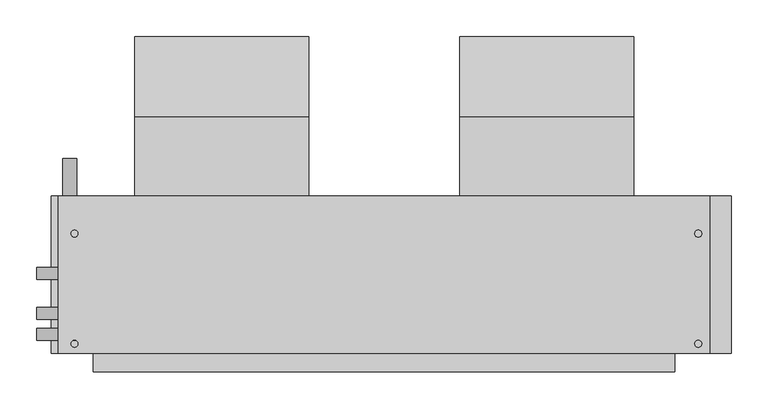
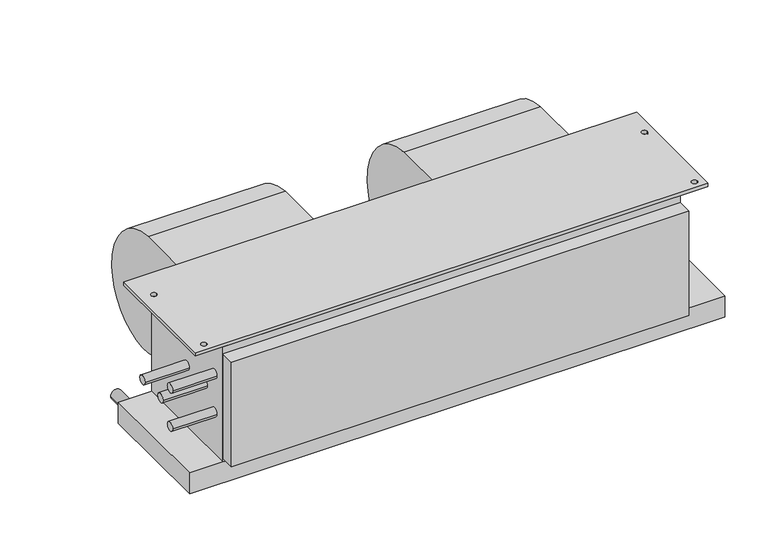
"""IFC4 building model written with IfcOpenShell, lengths in millimetres: proxy geometry, Concealed_Horizontal_Fan_Coil_Unit_-_42CAA_-_CARRIER_-_4-Pipe_LH_2022 : Size 06 - 277v/60Hz/1Ph - 4/1 Coil."""

import ifcopenshell
import ifcopenshell.guid

model = None  # the IFC model being written
_history = None  # IfcOwnerHistory: only IFC2X3 demands one
_inside = {}  # id of a spatial element -> (the spatial element, [elements in it])
_under = {}  # id of a project, library or spatial element -> (it, [spatial elements below it])
_declared = {}  # id of a project -> (the project, [libraries it declares])
_typed = {}  # id of a type object -> (the type object, [elements of that type])
_made_of = {}  # id of a material, layer set ... -> (it, [elements and type objects made of it])


def new_model(schema):
    """Start an empty IFC model of exactly this schema.

    Asked for "IFC4X3", IfcOpenShell would pick the latest addendum, in which some entities
    have other attributes; the version numbers below select the first issue.
    IFC2X3 requires an IfcOwnerHistory on every rooted entity: one is made here for all.
    """
    global model, _history
    if schema == "IFC4X3":
        model = ifcopenshell.file(schema_version=(4, 3, 0, 0))
    else:
        model = ifcopenshell.file(schema=schema)
    _inside.clear()
    _under.clear()
    _declared.clear()
    _typed.clear()
    _made_of.clear()
    _history = None
    if model.schema == "IFC2X3":
        org = make("IfcOrganization", Name="unknown")
        user = make(
            "IfcPersonAndOrganization",
            ThePerson=make("IfcPerson", FamilyName="unknown"),
            TheOrganization=org,
        )
        app = make(
            "IfcApplication",
            ApplicationDeveloper=org,
            Version="unknown",
            ApplicationFullName="unknown",
            ApplicationIdentifier="unknown",
        )
        _history = make(
            "IfcOwnerHistory",
            OwningUser=user,
            OwningApplication=app,
            ChangeAction="ADDED",
            CreationDate=0,
        )
    return model


def make(cls, **values):
    """One entity of the class cls with the attributes given. An attribute that is None is left unset."""
    return model.create_entity(
        cls, **{name: value for name, value in values.items() if value is not None}
    )


def rooted(cls, **values):
    """An entity with a GlobalId (a new one), such as an element, a storey or a relation."""
    return make(cls, GlobalId=ifcopenshell.guid.new(), OwnerHistory=_history, **values)


def si_unit(unit_type, name, prefix=None):
    """IfcSIUnit, for example si_unit("LENGTHUNIT", "METRE", prefix="MILLI")."""
    return make("IfcSIUnit", UnitType=unit_type, Prefix=prefix, Name=name)


def assignment(units):
    """IfcUnitAssignment: the units of a project."""
    return None if units is None else make("IfcUnitAssignment", Units=units)


def point(xyz):
    """IfcCartesianPoint."""
    return None if xyz is None else make("IfcCartesianPoint", Coordinates=xyz)


def direction(xyz):
    """IfcDirection."""
    return None if xyz is None else make("IfcDirection", DirectionRatios=xyz)


def frame(location, z_axis=None, x_axis=None):
    """IfcAxis2Placement3D, a coordinate frame: its origin and axes. An axis left out is left unset."""
    return make(
        "IfcAxis2Placement3D",
        Location=point(location),
        Axis=direction(z_axis),
        RefDirection=direction(x_axis),
    )


def frame_2d(location, x_axis=None):
    """IfcAxis2Placement2D, a coordinate frame in the plane: its origin and x axis."""
    return make(
        "IfcAxis2Placement2D", Location=point(location), RefDirection=direction(x_axis)
    )


def origin():
    """The frame at (0, 0, 0) with its axes left unset."""
    return frame((0.0, 0.0, 0.0))


def place(relative_to, where):
    """IfcLocalPlacement: puts the frame where relative to a parent placement (None: the world)."""
    return make(
        "IfcLocalPlacement", PlacementRelTo=relative_to, RelativePlacement=where
    )


def context(
    kind, dimensions, precision=None, world=None, true_north=None, identifier=None
):
    """IfcGeometricRepresentationContext, for example the 3D "Model" context."""
    return make(
        "IfcGeometricRepresentationContext",
        ContextIdentifier=identifier,
        ContextType=kind,
        CoordinateSpaceDimension=dimensions,
        Precision=precision,
        WorldCoordinateSystem=world,
        TrueNorth=true_north,
    )


def project(units=None, contexts=None):
    """IfcProject with its units and contexts."""
    return rooted(
        "IfcProject",
        Name="project",
        RepresentationContexts=contexts,
        UnitsInContext=assignment(units),
    )


def spatial(cls, under=None, at=None, **own):
    """A site, building, storey or space (cls), placed at a placement, below another one or the project."""
    s = rooted(cls, ObjectPlacement=at, **own)
    if under is not None:
        _under.setdefault(under.id(), (under, []))[1].append(s)
    return s


def polyline(points):
    """IfcPolyline through the points."""
    return make("IfcPolyline", Points=[point(p) for p in points])


def circle_curve(where, radius):
    """IfcCircle in the frame where."""
    return make("IfcCircle", Position=where, Radius=radius)


def trimmed(basis, trim1, trim2, sense, master):
    """IfcTrimmedCurve: the piece of a basis curve between two trims."""
    return make(
        "IfcTrimmedCurve",
        BasisCurve=basis,
        Trim1=trim1,
        Trim2=trim2,
        SenseAgreement=sense,
        MasterRepresentation=master,
    )


def segment(curve, same_sense, transition):
    """IfcCompositeCurveSegment."""
    return make(
        "IfcCompositeCurveSegment",
        Transition=transition,
        SameSense=same_sense,
        ParentCurve=curve,
    )


def composite_curve(segments, self_intersect=None):
    """IfcCompositeCurve: segments joined end to end."""
    return make("IfcCompositeCurve", Segments=segments, SelfIntersect=self_intersect)


def outline(outer, holes=None, kind="AREA"):
    """IfcArbitraryClosedProfileDef: a profile drawn as a closed curve; with holes, ...WithVoids."""
    if holes is None:
        return make("IfcArbitraryClosedProfileDef", ProfileType=kind, OuterCurve=outer)
    return make(
        "IfcArbitraryProfileDefWithVoids",
        ProfileType=kind,
        OuterCurve=outer,
        InnerCurves=holes,
    )


def extrude(swept, where, along, depth):
    """IfcExtrudedAreaSolid: the profile swept, set in the frame where, extruded along a direction by depth."""
    return make(
        "IfcExtrudedAreaSolid",
        SweptArea=swept,
        Position=where,
        ExtrudedDirection=direction(along),
        Depth=depth,
    )


def shape(context_of_items, identifier, shape_type, items):
    """IfcShapeRepresentation: the items that make up one representation, for example the "Body"."""
    return make(
        "IfcShapeRepresentation",
        ContextOfItems=context_of_items,
        RepresentationIdentifier=identifier,
        RepresentationType=shape_type,
        Items=items,
    )


def source(mapping_origin, context_of_items, identifier, shape_type, items):
    """IfcRepresentationMap: a shape defined once, which mapped items show again and again."""
    return make(
        "IfcRepresentationMap",
        MappingOrigin=mapping_origin,
        MappedRepresentation=shape(context_of_items, identifier, shape_type, items),
    )


def transform(
    local_origin,
    x_axis=None,
    y_axis=None,
    z_axis=None,
    scale=None,
    scale2=None,
    scale3=None,
    uniform=True,
):
    """IfcCartesianTransformationOperator3D, or its non-uniform kind. x_axis, y_axis, z_axis: its Axis1, 2, 3."""
    if uniform:
        return make(
            "IfcCartesianTransformationOperator3D",
            Axis1=direction(x_axis),
            Axis2=direction(y_axis),
            LocalOrigin=point(local_origin),
            Scale=scale,
            Axis3=direction(z_axis),
        )
    return make(
        "IfcCartesianTransformationOperator3DnonUniform",
        Axis1=direction(x_axis),
        Axis2=direction(y_axis),
        LocalOrigin=point(local_origin),
        Scale=scale,
        Axis3=direction(z_axis),
        Scale2=scale2,
        Scale3=scale3,
    )


def mapped(mapping_source, mapping_target):
    """IfcMappedItem: shows the shape of a source again, moved by a transform."""
    return make(
        "IfcMappedItem", MappingSource=mapping_source, MappingTarget=mapping_target
    )


def made_of(thing, what):
    """Note that an element or type object is made of a material, layer set ...; save() writes the relation."""
    if what is not None:
        _made_of.setdefault(what.id(), (what, []))[1].append(thing)
    return thing


def element(
    cls,
    number,
    at=None,
    inside=None,
    cuts=None,
    type_object=None,
    material=None,
    context=None,
    identifier="Body",
    shape_type=None,
    held_by="IfcProductDefinitionShape",
    body=None,
    shapes=None,
    **own,
):
    """One element of the class cls, such as IfcWall. Its Tag is "e" and its number.

    at: its placement. inside: the storey or other place that contains it. cuts: it is an
    opening in that element (IfcRelVoidsElement). A single representation is given by context,
    identifier, shape_type and body (its items); several are given by shapes. held_by: the class
    of the entity that holds the representations. save() writes the other relations.
    """
    e = rooted(cls, Tag="e%d" % number, ObjectPlacement=at, **own)
    if body is not None:
        shapes = [shape(context, identifier, shape_type, body)]
    if shapes is not None:
        e.Representation = make(held_by, Representations=shapes)
    if inside is not None:
        _inside.setdefault(inside.id(), (inside, []))[1].append(e)
    if cuts is not None:
        rooted(
            "IfcRelVoidsElement", RelatingBuildingElement=cuts, RelatedOpeningElement=e
        )
    if type_object is not None:
        _typed.setdefault(type_object.id(), (type_object, []))[1].append(e)
    return made_of(e, material)


def aggregate(whole, parts):
    """IfcRelAggregates: a whole, such as a stair, and the parts it consists of."""
    return rooted("IfcRelAggregates", RelatingObject=whole, RelatedObjects=parts)


def save(model, path):
    """Write the relations noted so far, then the file.

    IfcRelAggregates (storeys below a building ...), IfcRelContainedInSpatialStructure (elements
    in a storey), IfcRelDefinesByType, IfcRelAssociatesMaterial and IfcRelDeclares: one each for
    every whole, place, type object, material and project.
    """
    for whole, parts in _under.values():
        aggregate(whole, parts)
    for where, things in _inside.values():
        rooted(
            "IfcRelContainedInSpatialStructure",
            RelatedElements=things,
            RelatingStructure=where,
        )
    for kind, things in _typed.values():
        rooted("IfcRelDefinesByType", RelatedObjects=things, RelatingType=kind)
    for what, things in _made_of.values():
        rooted("IfcRelAssociatesMaterial", RelatedObjects=things, RelatingMaterial=what)
    for by, libraries in _declared.values():
        rooted("IfcRelDeclares", RelatingContext=by, RelatedDefinitions=libraries)
    model.write(path)


def mechanical_equipment_e56f94ae(model_context):
    return source(origin(), model_context, "Body", "SweptSolid", [
        extrude(outline(composite_curve([segment(trimmed(circle_curve(frame_2d((-33.198831, -136.0299844)), 117.3559541), [point((-23.8125, -19.05))], [point((84.1375, -138.176))], False, "CARTESIAN"), True, "CONTINUOUS"), segment(trimmed(circle_curve(frame_2d((-11.5977337, -136.4250563)), 95.7512443), [point((84.1375, -138.176))], [point((-23.8125, -231.394))], False, "CARTESIAN"), True, "CONTINUOUS"), segment(trimmed(circle_curve(frame_2d((-11.6288131, -136.6666968)), 95.5076133), [point((-23.8125, -231.394))], [point((-107.1245, -138.176))], False, "CARTESIAN"), True, "CONTINUOUS"), segment(trimmed(circle_curve(frame_2d((-126.2059828, -138.4775816)), 19.0838659), [point((-107.1245, -138.176))], [point((-119.3963373, -120.65))], True, "CARTESIAN"), True, "CONTINUOUS"), segment(polyline([(-119.3963373, -120.65), (-131.7625, -120.65), (-131.7625, -19.05), (-23.8125, -19.05)]), True, "CONTINUOUS")], self_intersect=False)), frame((254.8255, 0.0, 0.0), z_axis=(1.0, 0.0, 0.0), x_axis=(0.0, 1.0, 0.0)), (0.0, 0.0, 1.0), 235.712),
        extrude(outline(composite_curve([segment(trimmed(circle_curve(frame_2d((-33.198831, -136.0299844)), 117.3559541), [point((-23.8125, -19.05))], [point((84.1375, -138.176))], False, "CARTESIAN"), True, "CONTINUOUS"), segment(trimmed(circle_curve(frame_2d((-11.5977337, -136.4250563)), 95.7512443), [point((84.1375, -138.176))], [point((-23.8125, -231.394))], False, "CARTESIAN"), True, "CONTINUOUS"), segment(trimmed(circle_curve(frame_2d((-11.6288131, -136.6666968)), 95.5076133), [point((-23.8125, -231.394))], [point((-107.1245, -138.176))], False, "CARTESIAN"), True, "CONTINUOUS"), segment(trimmed(circle_curve(frame_2d((-126.2059828, -138.4775816)), 19.0838659), [point((-107.1245, -138.176))], [point((-119.3963373, -120.65))], True, "CARTESIAN"), True, "CONTINUOUS"), segment(polyline([(-119.3963373, -120.65), (-131.7625, -120.65), (-131.7625, -19.05), (-23.8125, -19.05)]), True, "CONTINUOUS")], self_intersect=False)), frame((-184.912, 0.0, 0.0), z_axis=(1.0, 0.0, 0.0), x_axis=(0.0, 1.0, 0.0)), (0.0, 0.0, 1.0), 235.712),
        extrude(outline(polyline([(593.725, -131.7625), (593.725, -344.4875), (-288.925, -344.4875), (-288.925, -131.7625), (593.725, -131.7625)]), holes=[composite_curve([segment(trimmed(circle_curve(frame_2d((-266.7, -182.5625)), 4.7625), [point((-271.4625, -182.5625))], [point((-261.9375, -182.5625))], True, "CARTESIAN"), True, "CONTINUOUS"), segment(trimmed(circle_curve(frame_2d((-266.7, -182.5625)), 4.7625), [point((-261.9375, -182.5625))], [point((-271.4625, -182.5625))], True, "CARTESIAN"), True, "CONTINUOUS")], self_intersect=False), composite_curve([segment(trimmed(circle_curve(frame_2d((-266.7, -331.7875)), 4.7625), [point((-271.4625, -331.7875))], [point((-261.9375, -331.7875))], True, "CARTESIAN"), True, "CONTINUOUS"), segment(trimmed(circle_curve(frame_2d((-266.7, -331.7875)), 4.7625), [point((-261.9375, -331.7875))], [point((-271.4625, -331.7875))], True, "CARTESIAN"), True, "CONTINUOUS")], self_intersect=False), composite_curve([segment(trimmed(circle_curve(frame_2d((577.85, -182.5625)), 4.7625), [point((573.0875, -182.5625))], [point((582.6125, -182.5625))], True, "CARTESIAN"), True, "CONTINUOUS"), segment(trimmed(circle_curve(frame_2d((577.85, -182.5625)), 4.7625), [point((582.6125, -182.5625))], [point((573.0875, -182.5625))], True, "CARTESIAN"), True, "CONTINUOUS")], self_intersect=False), composite_curve([segment(trimmed(circle_curve(frame_2d((577.85, -331.7875)), 4.7625), [point((573.0875, -331.7875))], [point((582.6125, -331.7875))], True, "CARTESIAN"), True, "CONTINUOUS"), segment(trimmed(circle_curve(frame_2d((577.85, -331.7875)), 4.7625), [point((582.6125, -331.7875))], [point((573.0875, -331.7875))], True, "CARTESIAN"), True, "CONTINUOUS")], self_intersect=False)]), frame((0.0, 0.0, -6.35), z_axis=(0.0, 0.0, 1.0), x_axis=(1.0, 0.0, 0.0)), (0.0, 0.0, 1.0), 6.35),
        extrude(outline(composite_curve([segment(trimmed(circle_curve(frame_2d((-241.3, -273.05)), 9.525), [point((-241.3, -282.575))], [point((-241.3, -263.525))], False, "CARTESIAN"), True, "CONTINUOUS"), segment(trimmed(circle_curve(frame_2d((-241.3, -273.05)), 9.525), [point((-241.3, -263.525))], [point((-241.3, -282.575))], False, "CARTESIAN"), True, "CONTINUOUS")], self_intersect=False)), frame((0.0, -131.7625, 0.0), z_axis=(0.0, 1.0, 0.0), x_axis=(0.0, 0.0, 1.0)), (0.0, 0.0, 1.0), 50.8),
        extrude(outline(polyline([(546.1, -369.8875), (-241.3, -369.8875), (-241.3, -344.4875), (546.1, -344.4875), (546.1, -369.8875)])), frame((0.0, 0.0, -209.55), z_axis=(0.0, 0.0, 1.0), x_axis=(1.0, 0.0, 0.0)), (0.0, 0.0, 1.0), 190.5),
        extrude(outline(polyline([(622.3, -131.7625), (622.3, -344.4875), (-298.45, -344.4875), (-298.45, -131.7625), (622.3, -131.7625)])), frame((0.0, 0.0, -254.0), z_axis=(0.0, 0.0, 1.0), x_axis=(1.0, 0.0, 0.0)), (0.0, 0.0, 1.0), 38.1),
        extrude(outline(composite_curve([segment(trimmed(circle_curve(frame_2d((-236.5375, -104.775)), 7.9375), [point((-228.6, -104.775))], [point((-244.475, -104.775))], False, "CARTESIAN"), True, "CONTINUOUS"), segment(trimmed(circle_curve(frame_2d((-236.5375, -104.775)), 7.9375), [point((-244.475, -104.775))], [point((-228.6, -104.775))], False, "CARTESIAN"), True, "CONTINUOUS")], self_intersect=False)), frame((-317.5, 0.0, 0.0), z_axis=(1.0, 0.0, 0.0), x_axis=(0.0, 1.0, 0.0)), (0.0, 0.0, 1.0), 76.2),
        extrude(outline(composite_curve([segment(trimmed(circle_curve(frame_2d((-290.5125, -104.775)), 7.9375), [point((-282.575, -104.775))], [point((-298.45, -104.775))], False, "CARTESIAN"), True, "CONTINUOUS"), segment(trimmed(circle_curve(frame_2d((-290.5125, -104.775)), 7.9375), [point((-298.45, -104.775))], [point((-282.575, -104.775))], False, "CARTESIAN"), True, "CONTINUOUS")], self_intersect=False)), frame((-317.5, 0.0, 0.0), z_axis=(1.0, 0.0, 0.0), x_axis=(0.0, 1.0, 0.0)), (0.0, 0.0, 1.0), 76.2),
        extrude(outline(composite_curve([segment(trimmed(circle_curve(frame_2d((-319.0875, -69.85)), 7.9375), [point((-311.15, -69.85))], [point((-327.025, -69.85))], False, "CARTESIAN"), True, "CONTINUOUS"), segment(trimmed(circle_curve(frame_2d((-319.0875, -69.85)), 7.9375), [point((-327.025, -69.85))], [point((-311.15, -69.85))], False, "CARTESIAN"), True, "CONTINUOUS")], self_intersect=False)), frame((-317.5, 0.0, 0.0), z_axis=(1.0, 0.0, 0.0), x_axis=(0.0, 1.0, 0.0)), (0.0, 0.0, 1.0), 76.2),
        extrude(outline(composite_curve([segment(trimmed(circle_curve(frame_2d((-319.0875, -139.7)), 7.9375), [point((-311.15, -139.7))], [point((-327.025, -139.7))], False, "CARTESIAN"), True, "CONTINUOUS"), segment(trimmed(circle_curve(frame_2d((-319.0875, -139.7)), 7.9375), [point((-327.025, -139.7))], [point((-311.15, -139.7))], False, "CARTESIAN"), True, "CONTINUOUS")], self_intersect=False)), frame((-317.5, 0.0, 0.0), z_axis=(1.0, 0.0, 0.0), x_axis=(0.0, 1.0, 0.0)), (0.0, 0.0, 1.0), 76.2),
        extrude(outline(polyline([(546.1, -344.4875), (-241.3, -344.4875), (-241.3, -131.7625), (546.1, -131.7625), (546.1, -344.4875)])), frame((0.0, 0.0, -215.9), z_axis=(0.0, 0.0, 1.0), x_axis=(1.0, 0.0, 0.0)), (0.0, 0.0, 1.0), 209.55),
    ])


if __name__ == "__main__":
    model = new_model("IFC4")
    model_context = context("Model", 3, world=origin())
    ifc_project = project(units=[si_unit("LENGTHUNIT", "METRE", prefix="MILLI")], contexts=[model_context])
    site = spatial("IfcSite", under=ifc_project)
    building = spatial("IfcBuilding", under=site)
    placement = place(None, origin())
    mechanical_equipment_shape = mechanical_equipment_e56f94ae(model_context)
    element("IfcBuildingElementProxy", 1, Name="Concealed_Horizontal_Fan_Coil_Unit_-_42CAA_-_CARRIER_-_4-Pipe_LH_2022 : Size 06 - 277v/60Hz/1Ph - 4/1 Coil", ObjectType="Concealed_Horizontal_Fan_Coil_Unit_-_42CAA_-_CARRIER_-_4-Pipe_LH_2022 : Size 06 - 277v/60Hz/1Ph - 4/1 Coil", at=placement, inside=building, context=model_context, shape_type="MappedRepresentation", body=[
        mapped(mechanical_equipment_shape, transform((0.0, 0.0, 0.0), x_axis=(1.0, 0.0, 0.0), y_axis=(0.0, 1.0, 0.0), z_axis=(0.0, 0.0, 1.0))),
    ])
    save(model, "model.ifc")
